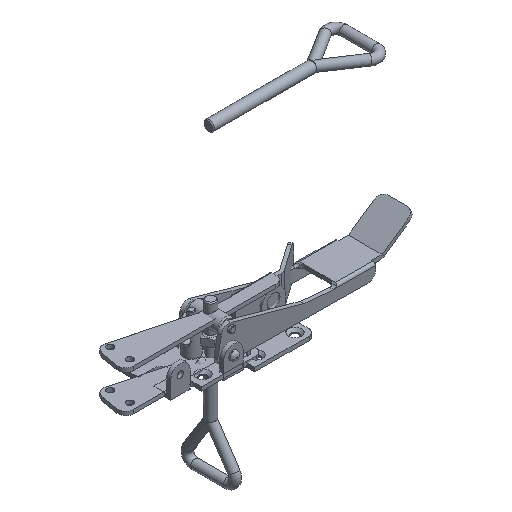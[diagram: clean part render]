
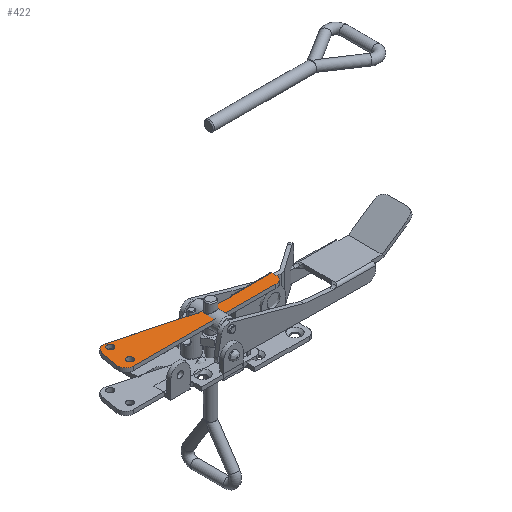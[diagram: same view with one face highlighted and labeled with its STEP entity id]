
A CAD part, isometric view. The second image highlights one B-rep face of the part: STEP entity #422.
In plain terms, the highlighted planar face has unit normal (0, 0, 1).
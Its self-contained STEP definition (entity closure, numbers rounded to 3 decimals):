
#422 = ADVANCED_FACE( '', ( #901, #902, #903 ), #904, .T. );
#901 = FACE_OUTER_BOUND( '', #1597, .T. );
#902 = FACE_BOUND( '', #1598, .T. );
#903 = FACE_BOUND( '', #1599, .T. );
#904 = PLANE( '', #1600 );
#1597 = EDGE_LOOP( '', ( #2640, #2641, #2642, #2643, #2644, #2645, #2646, #2647, #2648, #2649 ) );
#1598 = EDGE_LOOP( '', ( #2650 ) );
#1599 = EDGE_LOOP( '', ( #2651 ) );
#1600 = AXIS2_PLACEMENT_3D( '', #2652, #2653, #2654 );
#2640 = ORIENTED_EDGE( '', *, *, #3007, .F. );
#2641 = ORIENTED_EDGE( '', *, *, #2948, .F. );
#2642 = ORIENTED_EDGE( '', *, *, #2892, .F. );
#2643 = ORIENTED_EDGE( '', *, *, #3094, .F. );
#2644 = ORIENTED_EDGE( '', *, *, #3047, .F. );
#2645 = ORIENTED_EDGE( '', *, *, #3077, .F. );
#2646 = ORIENTED_EDGE( '', *, *, #2811, .F. );
#2647 = ORIENTED_EDGE( '', *, *, #2871, .F. );
#2648 = ORIENTED_EDGE( '', *, *, #2931, .F. );
#2649 = ORIENTED_EDGE( '', *, *, #2825, .T. );
#2650 = ORIENTED_EDGE( '', *, *, #2867, .T. );
#2651 = ORIENTED_EDGE( '', *, *, #2973, .T. );
#2652 = CARTESIAN_POINT( '', ( -2.794, -5.67, 30.5 ) );
#2653 = DIRECTION( '', ( 0., 0., 1. ) );
#2654 = DIRECTION( '', ( 1., 0., 0. ) );
#2811 = EDGE_CURVE( '', #3297, #3299, #3300, .T. );
#2825 = EDGE_CURVE( '', #3323, #3321, #3324, .T. );
#2867 = EDGE_CURVE( '', #3395, #3395, #3396, .T. );
#2871 = EDGE_CURVE( '', #3400, #3297, #3403, .T. );
#2892 = EDGE_CURVE( '', #3436, #3432, #3438, .T. );
#2931 = EDGE_CURVE( '', #3323, #3400, #3490, .T. );
#2948 = EDGE_CURVE( '', #3432, #3514, #3515, .T. );
#2973 = EDGE_CURVE( '', #3553, #3553, #3554, .T. );
#3007 = EDGE_CURVE( '', #3514, #3321, #3602, .T. );
#3047 = EDGE_CURVE( '', #3653, #3655, #3656, .T. );
#3077 = EDGE_CURVE( '', #3299, #3653, #3690, .T. );
#3094 = EDGE_CURVE( '', #3655, #3436, #3708, .T. );
#3297 = VERTEX_POINT( '', #3996 );
#3299 = VERTEX_POINT( '', #3999 );
#3300 = CIRCLE( '', #4000, 6. );
#3321 = VERTEX_POINT( '', #4121 );
#3323 = VERTEX_POINT( '', #4123 );
#3324 = LINE( '', #4124, #4125 );
#3395 = VERTEX_POINT( '', #4283 );
#3396 = CIRCLE( '', #4284, 2.5 );
#3400 = VERTEX_POINT( '', #4288 );
#3403 = LINE( '', #4292, #4293 );
#3432 = VERTEX_POINT( '', #4397 );
#3436 = VERTEX_POINT( '', #4403 );
#3438 = LINE( '', #4406, #4407 );
#3490 = CIRCLE( '', #4477, 6. );
#3514 = VERTEX_POINT( '', #4513 );
#3515 = CIRCLE( '', #4514, 3. );
#3553 = VERTEX_POINT( '', #4684 );
#3554 = CIRCLE( '', #4685, 2.5 );
#3602 = LINE( '', #4740, #4741 );
#3653 = VERTEX_POINT( '', #4814 );
#3655 = VERTEX_POINT( '', #4817 );
#3656 = CIRCLE( '', #4818, 6. );
#3690 = LINE( '', #4860, #4861 );
#3708 = LINE( '', #4880, #4881 );
#3996 = CARTESIAN_POINT( '', ( -58.349, -13.787, 30.5 ) );
#3999 = CARTESIAN_POINT( '', ( -64.258, -6.745, 30.5 ) );
#4000 = AXIS2_PLACEMENT_3D( '', #5040, #5041, #5042 );
#4121 = CARTESIAN_POINT( '', ( 57.5, -4.787, 30.5 ) );
#4123 = CARTESIAN_POINT( '', ( 57.5, -7.787, 30.5 ) );
#4124 = CARTESIAN_POINT( '', ( 57.5, -7.787, 30.5 ) );
#4125 = VECTOR( '', #5056, 1000. );
#4283 = CARTESIAN_POINT( '', ( -52.048, 8.014, 30.5 ) );
#4284 = AXIS2_PLACEMENT_3D( '', #5099, #5100, #5101 );
#4288 = CARTESIAN_POINT( '', ( 51.5, -13.787, 30.5 ) );
#4292 = CARTESIAN_POINT( '', ( 51.5, -13.787, 30.5 ) );
#4293 = VECTOR( '', #5106, 1000. );
#4397 = CARTESIAN_POINT( '', ( 25.022, -4.955, 30.5 ) );
#4403 = CARTESIAN_POINT( '', ( 2.147, -3.036, 30.5 ) );
#4406 = CARTESIAN_POINT( '', ( 2.147, -3.036, 30.5 ) );
#4407 = VECTOR( '', #5119, 1000. );
#4477 = AXIS2_PLACEMENT_3D( '', #5165, #5166, #5167 );
#4513 = CARTESIAN_POINT( '', ( 26.293, -4.787, 30.5 ) );
#4514 = AXIS2_PLACEMENT_3D( '', #5191, #5192, #5193 );
#4684 = CARTESIAN_POINT( '', ( -52.803, -7.787, 30.5 ) );
#4685 = AXIS2_PLACEMENT_3D( '', #5215, #5216, #5217 );
#4740 = CARTESIAN_POINT( '', ( 26.293, -4.787, 30.5 ) );
#4741 = VECTOR( '', #5264, 1000. );
#4814 = CARTESIAN_POINT( '', ( -61.775, 7.339, 30.5 ) );
#4817 = CARTESIAN_POINT( '', ( -54.313, 12.093, 30.5 ) );
#4818 = AXIS2_PLACEMENT_3D( '', #5308, #5309, #5310 );
#4860 = CARTESIAN_POINT( '', ( -64.258, -6.745, 30.5 ) );
#4861 = VECTOR( '', #5334, 1000. );
#4880 = CARTESIAN_POINT( '', ( -54.313, 12.093, 30.5 ) );
#4881 = VECTOR( '', #5345, 1000. );
#5040 = CARTESIAN_POINT( '', ( -58.349, -7.787, 30.5 ) );
#5041 = DIRECTION( '', ( 0., 0., -1. ) );
#5042 = DIRECTION( '', ( -0.766, -0.643, 0. ) );
#5056 = DIRECTION( '', ( 0., 1., 0. ) );
#5099 = CARTESIAN_POINT( '', ( -54.548, 8.014, 30.5 ) );
#5100 = DIRECTION( '', ( 0., 0., -1. ) );
#5101 = DIRECTION( '', ( 1., 0., 0. ) );
#5106 = DIRECTION( '', ( -1., 0., 0. ) );
#5119 = DIRECTION( '', ( 0.996, -0.084, 0. ) );
#5165 = CARTESIAN_POINT( '', ( 51.5, -7.787, 30.5 ) );
#5166 = DIRECTION( '', ( 0., 0., -1. ) );
#5167 = DIRECTION( '', ( 0.707, -0.707, 0. ) );
#5191 = CARTESIAN_POINT( '', ( 25.273, -1.966, 30.5 ) );
#5192 = DIRECTION( '', ( 0., 0., 1. ) );
#5193 = DIRECTION( '', ( 0.384, -0.923, 0. ) );
#5215 = CARTESIAN_POINT( '', ( -55.303, -7.787, 30.5 ) );
#5216 = DIRECTION( '', ( 0., 0., -1. ) );
#5217 = DIRECTION( '', ( 1., 0., 0. ) );
#5264 = DIRECTION( '', ( 1., 0., 0. ) );
#5308 = CARTESIAN_POINT( '', ( -55.866, 6.297, 30.5 ) );
#5309 = DIRECTION( '', ( 0., 0., -1. ) );
#5310 = DIRECTION( '', ( -0.537, 0.843, 0. ) );
#5334 = DIRECTION( '', ( 0.174, 0.985, 0. ) );
#5345 = DIRECTION( '', ( 0.966, -0.259, 0. ) );
